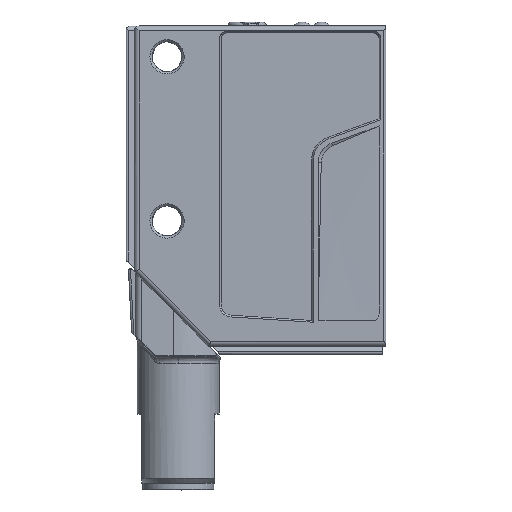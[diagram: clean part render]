
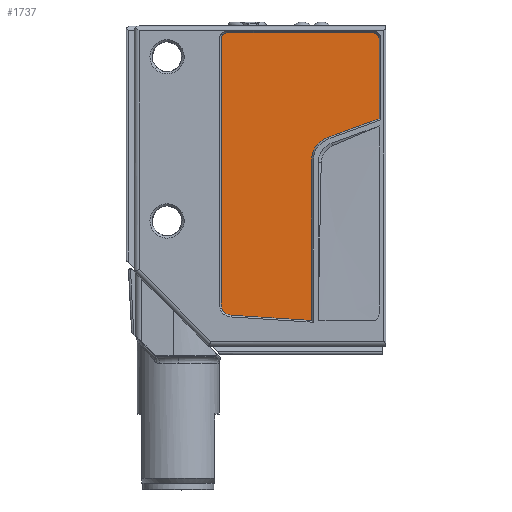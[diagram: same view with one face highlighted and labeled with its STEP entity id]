
A CAD part, top view. The second image highlights one B-rep face of the part: STEP entity #1737.
In plain terms, the highlighted planar face has unit normal (0, 0, 1).
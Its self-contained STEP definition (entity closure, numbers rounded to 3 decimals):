
#1041=FACE_OUTER_BOUND('',#2415,.T.);
#1300=B_SPLINE_CURVE_WITH_KNOTS('',3,(#11467,#11468,#11469,#11470,#11471,
#11472,#11473,#11474,#11475,#11476,#11477,#11478,#11479,#11480),
 .UNSPECIFIED.,.F.,.F.,(4,2,2,2,2,2,4),(0.,0.25,0.375,0.5,0.625,0.75,1.),
 .UNSPECIFIED.);
#1302=B_SPLINE_CURVE_WITH_KNOTS('',3,(#11517,#11518,#11519,#11520,#11521,
#11522,#11523,#11524),.UNSPECIFIED.,.F.,.F.,(4,2,2,4),(0.,0.5,0.75,1.),
 .UNSPECIFIED.);
#1303=B_SPLINE_CURVE_WITH_KNOTS('',3,(#11559,#11560,#11561,#11562,#11563,
#11564,#11565,#11566,#11567,#11568),.UNSPECIFIED.,.F.,.F.,(4,2,2,2,4),(0.,
0.25,0.5,0.75,1.),.UNSPECIFIED.);
#1304=B_SPLINE_CURVE_WITH_KNOTS('',3,(#11599,#11600,#11601,#11602,#11603,
#11604),.UNSPECIFIED.,.F.,.F.,(4,2,4),(0.,0.5,1.),.UNSPECIFIED.);
#1305=B_SPLINE_CURVE_WITH_KNOTS('',3,(#11621,#11622,#11623,#11624,#11625,
#11626),.UNSPECIFIED.,.F.,.F.,(4,2,4),(0.,0.5,1.),.UNSPECIFIED.);
#1737=ADVANCED_FACE('',(#1041),#2009,.F.);
#2009=PLANE('',#6938);
#2415=EDGE_LOOP('',(#3473,#3474,#3475,#3476,#3477,#3478,#3479,#3480,#3481,
#3482));
#3473=ORIENTED_EDGE('',*,*,#5414,.T.);
#3474=ORIENTED_EDGE('',*,*,#5417,.T.);
#3475=ORIENTED_EDGE('',*,*,#5419,.T.);
#3476=ORIENTED_EDGE('',*,*,#5421,.T.);
#3477=ORIENTED_EDGE('',*,*,#5423,.T.);
#3478=ORIENTED_EDGE('',*,*,#5425,.T.);
#3479=ORIENTED_EDGE('',*,*,#5427,.T.);
#3480=ORIENTED_EDGE('',*,*,#5429,.T.);
#3481=ORIENTED_EDGE('',*,*,#5431,.T.);
#3482=ORIENTED_EDGE('',*,*,#5432,.T.);
#4707=VERTEX_POINT('',#11460);
#4708=VERTEX_POINT('',#11462);
#4709=VERTEX_POINT('',#11466);
#4710=VERTEX_POINT('',#11516);
#4711=VERTEX_POINT('',#11554);
#4712=VERTEX_POINT('',#11558);
#4713=VERTEX_POINT('',#11590);
#4714=VERTEX_POINT('',#11594);
#4715=VERTEX_POINT('',#11598);
#4716=VERTEX_POINT('',#11618);
#5414=EDGE_CURVE('',#4708,#4707,#6108,.T.);
#5417=EDGE_CURVE('',#4707,#4709,#1300,.T.);
#5419=EDGE_CURVE('',#4709,#4710,#1302,.T.);
#5421=EDGE_CURVE('',#4710,#4711,#6112,.T.);
#5423=EDGE_CURVE('',#4711,#4712,#1303,.T.);
#5425=EDGE_CURVE('',#4712,#4713,#6115,.T.);
#5427=EDGE_CURVE('',#4713,#4714,#6117,.T.);
#5429=EDGE_CURVE('',#4714,#4715,#1304,.T.);
#5431=EDGE_CURVE('',#4715,#4716,#6120,.T.);
#5432=EDGE_CURVE('',#4716,#4708,#1305,.T.);
#6108=LINE('',#11461,#6521);
#6112=LINE('',#11555,#6525);
#6115=LINE('',#11591,#6528);
#6117=LINE('',#11595,#6530);
#6120=LINE('',#11619,#6533);
#6521=VECTOR('',#7920,1.);
#6525=VECTOR('',#7926,1.);
#6528=VECTOR('',#7931,1.);
#6530=VECTOR('',#7935,1.);
#6533=VECTOR('',#7940,1.);
#6938=AXIS2_PLACEMENT_3D('',#11639,#7943,#7944);
#7920=DIRECTION('',(0.,-1.,0.));
#7926=DIRECTION('',(0.,1.,0.));
#7931=DIRECTION('',(0.94,0.342,0.));
#7935=DIRECTION('',(0.,1.,0.));
#7940=DIRECTION('',(-1.,0.,0.));
#7943=DIRECTION('',(0.,0.,-1.));
#7944=DIRECTION('',(-1.,0.,0.));
#11460=CARTESIAN_POINT('',(-21.89,-16.449,7.2));
#11461=CARTESIAN_POINT('',(-21.89,1.849,7.2));
#11462=CARTESIAN_POINT('',(-21.89,22.144,7.2));
#11466=CARTESIAN_POINT('',(-20.21,-18.293,7.2));
#11467=CARTESIAN_POINT('',(-21.89,-16.449,7.2));
#11468=CARTESIAN_POINT('',(-21.89,-16.768,7.2));
#11469=CARTESIAN_POINT('',(-21.863,-17.036,7.2));
#11470=CARTESIAN_POINT('',(-21.774,-17.373,7.2));
#11471=CARTESIAN_POINT('',(-21.736,-17.474,7.2));
#11472=CARTESIAN_POINT('',(-21.643,-17.657,7.2));
#11473=CARTESIAN_POINT('',(-21.587,-17.738,7.2));
#11474=CARTESIAN_POINT('',(-21.455,-17.882,7.2));
#11475=CARTESIAN_POINT('',(-21.38,-17.945,7.2));
#11476=CARTESIAN_POINT('',(-21.207,-18.055,7.2));
#11477=CARTESIAN_POINT('',(-21.111,-18.101,7.2));
#11478=CARTESIAN_POINT('',(-20.786,-18.219,7.2));
#11479=CARTESIAN_POINT('',(-20.524,-18.267,7.2));
#11480=CARTESIAN_POINT('',(-20.21,-18.293,7.2));
#11516=CARTESIAN_POINT('',(-8.713,-19.05,7.2));
#11517=CARTESIAN_POINT('',(-20.21,-18.293,7.2));
#11518=CARTESIAN_POINT('',(-20.167,-18.297,7.2));
#11519=CARTESIAN_POINT('',(-18.023,-18.48,7.2));
#11520=CARTESIAN_POINT('',(-14.276,-18.758,7.2));
#11521=CARTESIAN_POINT('',(-12.938,-18.851,7.2));
#11522=CARTESIAN_POINT('',(-10.522,-18.994,7.2));
#11523=CARTESIAN_POINT('',(-9.444,-19.044,7.2));
#11524=CARTESIAN_POINT('',(-8.713,-19.05,7.2));
#11554=CARTESIAN_POINT('',(-8.713,3.57,7.2));
#11555=CARTESIAN_POINT('',(-8.713,1.849,7.2));
#11558=CARTESIAN_POINT('',(-5.669,7.945,7.2));
#11559=CARTESIAN_POINT('',(-8.713,3.57,7.2));
#11560=CARTESIAN_POINT('',(-8.713,4.196,7.2));
#11561=CARTESIAN_POINT('',(-8.669,4.729,7.2));
#11562=CARTESIAN_POINT('',(-8.463,5.651,7.2));
#11563=CARTESIAN_POINT('',(-8.301,6.039,7.2));
#11564=CARTESIAN_POINT('',(-7.831,6.714,7.2));
#11565=CARTESIAN_POINT('',(-7.524,7.,7.2));
#11566=CARTESIAN_POINT('',(-6.734,7.509,7.2));
#11567=CARTESIAN_POINT('',(-6.252,7.732,7.2));
#11568=CARTESIAN_POINT('',(-5.669,7.945,7.2));
#11590=CARTESIAN_POINT('',(1.2,10.449,7.2));
#11591=CARTESIAN_POINT('',(-11.758,5.725,7.2));
#11594=CARTESIAN_POINT('',(1.2,22.144,7.2));
#11595=CARTESIAN_POINT('',(1.2,1.849,7.2));
#11598=CARTESIAN_POINT('',(0.362,23.,7.2));
#11599=CARTESIAN_POINT('',(1.2,22.144,7.2));
#11600=CARTESIAN_POINT('',(1.2,22.38,7.2));
#11601=CARTESIAN_POINT('',(1.106,22.594,7.2));
#11602=CARTESIAN_POINT('',(0.803,22.904,7.2));
#11603=CARTESIAN_POINT('',(0.593,23.,7.2));
#11604=CARTESIAN_POINT('',(0.362,23.,7.2));
#11618=CARTESIAN_POINT('',(-21.052,23.,7.2));
#11619=CARTESIAN_POINT('',(-10.345,23.,7.2));
#11621=CARTESIAN_POINT('',(-21.052,23.,7.2));
#11622=CARTESIAN_POINT('',(-21.283,23.,7.2));
#11623=CARTESIAN_POINT('',(-21.492,22.904,7.2));
#11624=CARTESIAN_POINT('',(-21.796,22.594,7.2));
#11625=CARTESIAN_POINT('',(-21.89,22.38,7.2));
#11626=CARTESIAN_POINT('',(-21.89,22.144,7.2));
#11639=CARTESIAN_POINT('',(-21.521,-17.81,7.2));
